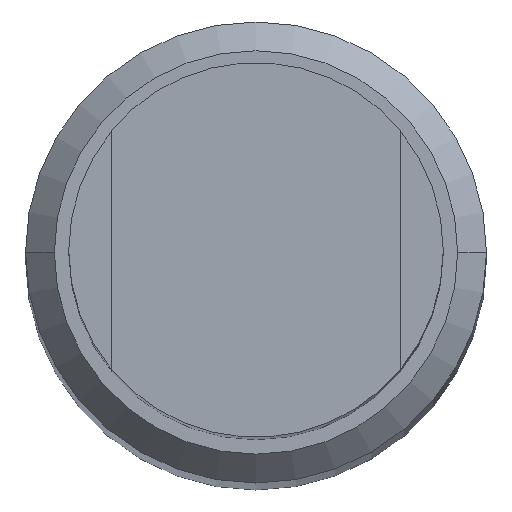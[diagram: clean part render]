
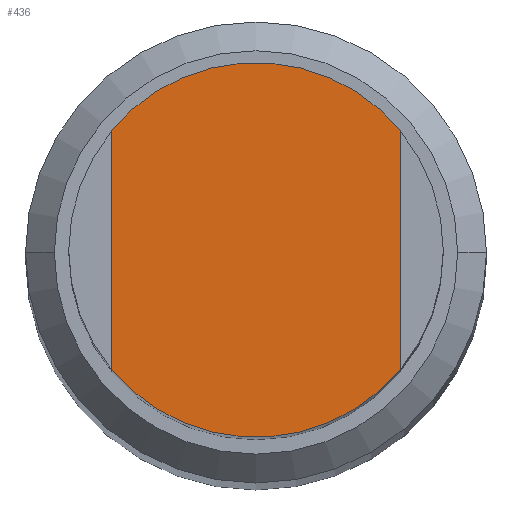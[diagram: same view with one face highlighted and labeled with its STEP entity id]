
A CAD part, top view. The second image highlights one B-rep face of the part: STEP entity #436.
In plain terms, the highlighted planar face has unit normal (0, 0, 1).
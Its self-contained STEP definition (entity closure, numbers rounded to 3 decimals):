
#301=AXIS2_PLACEMENT_3D('Circle Axis2P3D',#299,#300,$) ;
#368=AXIS2_PLACEMENT_3D('Circle Axis2P3D',#366,#367,$) ;
#418=AXIS2_PLACEMENT_3D('Plane Axis2P3D',#415,#416,#417) ;
#299=CARTESIAN_POINT('Axis2P3D Location',(0.,0.,200.)) ;
#303=CARTESIAN_POINT('Vertex',(-5.,-4.153,200.)) ;
#305=CARTESIAN_POINT('Vertex',(5.,-4.153,200.)) ;
#366=CARTESIAN_POINT('Axis2P3D Location',(0.,0.,200.)) ;
#370=CARTESIAN_POINT('Vertex',(5.,4.153,200.)) ;
#372=CARTESIAN_POINT('Vertex',(-5.,4.153,200.)) ;
#415=CARTESIAN_POINT('Axis2P3D Location',(0.,0.,200.)) ;
#420=CARTESIAN_POINT('Line Origine',(-5.,0.,200.)) ;
#425=CARTESIAN_POINT('Line Origine',(5.,0.,200.)) ;
#300=DIRECTION('Axis2P3D Direction',(0.,0.,1.)) ;
#367=DIRECTION('Axis2P3D Direction',(0.,0.,1.)) ;
#416=DIRECTION('Axis2P3D Direction',(0.,0.,1.)) ;
#417=DIRECTION('Axis2P3D XDirection',(1.,0.,0.)) ;
#421=DIRECTION('Vector Direction',(0.,-1.,0.)) ;
#426=DIRECTION('Vector Direction',(0.,-1.,0.)) ;
#422=VECTOR('Line Direction',#421,1.) ;
#427=VECTOR('Line Direction',#426,1.) ;
#431=ORIENTED_EDGE('',*,*,#424,.F.) ;
#432=ORIENTED_EDGE('',*,*,#307,.T.) ;
#433=ORIENTED_EDGE('',*,*,#429,.F.) ;
#434=ORIENTED_EDGE('',*,*,#374,.T.) ;
#436=ADVANCED_FACE('\X2\96F64EF651E04F554F53\X0\',(#435),#419,.T.) ;
#302=CIRCLE('generated circle',#301,6.5) ;
#369=CIRCLE('generated circle',#368,6.5) ;
#307=EDGE_CURVE('',#304,#306,#302,.T.) ;
#374=EDGE_CURVE('',#371,#373,#369,.T.) ;
#424=EDGE_CURVE('',#304,#373,#423,.F.) ;
#429=EDGE_CURVE('',#371,#306,#428,.T.) ;
#430=EDGE_LOOP('',(#431,#432,#433,#434)) ;
#435=FACE_OUTER_BOUND('',#430,.T.) ;
#423=LINE('Line',#420,#422) ;
#428=LINE('Line',#425,#427) ;
#419=PLANE('Plane',#418) ;
#304=VERTEX_POINT('',#303) ;
#306=VERTEX_POINT('',#305) ;
#371=VERTEX_POINT('',#370) ;
#373=VERTEX_POINT('',#372) ;
